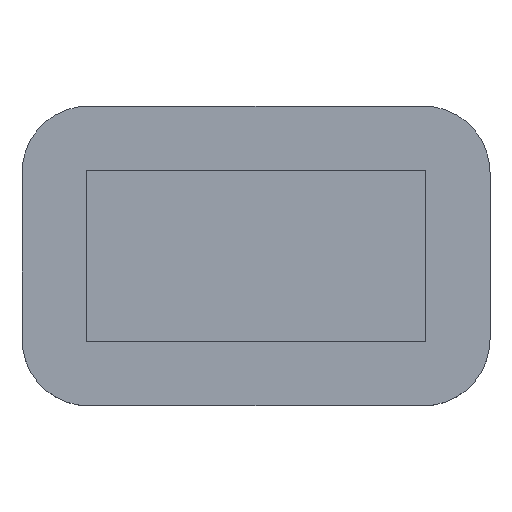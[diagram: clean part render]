
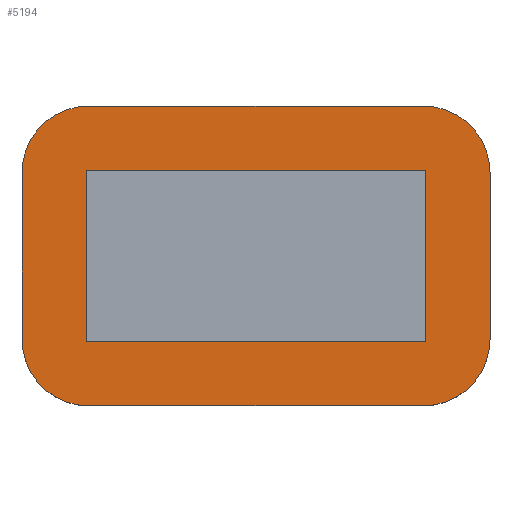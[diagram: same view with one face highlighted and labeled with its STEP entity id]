
A CAD part, top view. The second image highlights one B-rep face of the part: STEP entity #5194.
In plain terms, the highlighted planar face has unit normal (0, 0, 1).
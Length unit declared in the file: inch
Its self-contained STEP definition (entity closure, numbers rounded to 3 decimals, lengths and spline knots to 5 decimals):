
#71 = VECTOR ( 'NONE', #1730, 39.37008 ) ;
#92 = ORIENTED_EDGE ( 'NONE', *, *, #4803, .T. ) ;
#267 = DIRECTION ( 'NONE',  ( 1., 0., 0. ) ) ;
#273 = VERTEX_POINT ( 'NONE', #2966 ) ;
#313 = LINE ( 'NONE', #408, #2699 ) ;
#405 = CARTESIAN_POINT ( 'NONE',  ( 4., -2.5625, 0. ) ) ;
#408 = CARTESIAN_POINT ( 'NONE',  ( 4., -2.5625, 0. ) ) ;
#445 = EDGE_CURVE ( 'NONE', #1226, #5301, #1207, .T. ) ;
#451 = LINE ( 'NONE', #405, #1558 ) ;
#491 = CARTESIAN_POINT ( 'NONE',  ( -2.9, -1.4625, 0. ) ) ;
#551 = DIRECTION ( 'NONE',  ( 0., -1., 0. ) ) ;
#571 = CARTESIAN_POINT ( 'NONE',  ( -2.86, -2.5625, 0. ) ) ;
#604 = ORIENTED_EDGE ( 'NONE', *, *, #5384, .T. ) ;
#623 = DIRECTION ( 'NONE',  ( 0., 0., 1. ) ) ;
#625 = DIRECTION ( 'NONE',  ( 0., 0., 1. ) ) ;
#654 = DIRECTION ( 'NONE',  ( 0., 0., 1. ) ) ;
#706 = AXIS2_PLACEMENT_3D ( 'NONE', #3453, #623, #3949 ) ;
#859 = ORIENTED_EDGE ( 'NONE', *, *, #3732, .T. ) ;
#904 = CARTESIAN_POINT ( 'NONE',  ( 2.86, -2.5625, 0. ) ) ;
#942 = CARTESIAN_POINT ( 'NONE',  ( 2.9, -1.4625, 0. ) ) ;
#984 = CARTESIAN_POINT ( 'NONE',  ( 2.86, 2.5625, 0. ) ) ;
#986 = DIRECTION ( 'NONE',  ( 1., 0., 0. ) ) ;
#997 = CARTESIAN_POINT ( 'NONE',  ( 2.9, -1.4625, 0. ) ) ;
#1043 = LINE ( 'NONE', #997, #1339 ) ;
#1146 = CARTESIAN_POINT ( 'NONE',  ( 0., 0., 0. ) ) ;
#1147 = EDGE_LOOP ( 'NONE', ( #2583, #4974, #604, #5345, #1340, #3180, #92, #859 ) ) ;
#1207 = LINE ( 'NONE', #4216, #3142 ) ;
#1226 = VERTEX_POINT ( 'NONE', #5193 ) ;
#1339 = VECTOR ( 'NONE', #2401, 39.37008 ) ;
#1340 = ORIENTED_EDGE ( 'NONE', *, *, #4292, .T. ) ;
#1351 = AXIS2_PLACEMENT_3D ( 'NONE', #2144, #5401, #267 ) ;
#1402 = CIRCLE ( 'NONE', #5766, 1.14 ) ;
#1452 = VERTEX_POINT ( 'NONE', #904 ) ;
#1464 = VERTEX_POINT ( 'NONE', #5730 ) ;
#1490 = VECTOR ( 'NONE', #551, 39.37008 ) ;
#1519 = EDGE_CURVE ( 'NONE', #2127, #3879, #3820, .T. ) ;
#1558 = VECTOR ( 'NONE', #2332, 39.37008 ) ;
#1564 = LINE ( 'NONE', #4901, #1738 ) ;
#1660 = VERTEX_POINT ( 'NONE', #942 ) ;
#1730 = DIRECTION ( 'NONE',  ( -1., 0., 0. ) ) ;
#1738 = VECTOR ( 'NONE', #1747, 39.37008 ) ;
#1747 = DIRECTION ( 'NONE',  ( 1., 0., 0. ) ) ;
#1813 = VERTEX_POINT ( 'NONE', #3238 ) ;
#1952 = CARTESIAN_POINT ( 'NONE',  ( -2.86, 2.5625, 0. ) ) ;
#2114 = DIRECTION ( 'NONE',  ( 0., -1., 0. ) ) ;
#2127 = VERTEX_POINT ( 'NONE', #984 ) ;
#2144 = CARTESIAN_POINT ( 'NONE',  ( -2.86, -1.4225, 0. ) ) ;
#2326 = ORIENTED_EDGE ( 'NONE', *, *, #2723, .F. ) ;
#2332 = DIRECTION ( 'NONE',  ( 0., 1., 0. ) ) ;
#2401 = DIRECTION ( 'NONE',  ( 0., 1., 0. ) ) ;
#2539 = CIRCLE ( 'NONE', #5280, 1.14 ) ;
#2583 = ORIENTED_EDGE ( 'NONE', *, *, #1519, .T. ) ;
#2699 = VECTOR ( 'NONE', #3722, 39.37008 ) ;
#2723 = EDGE_CURVE ( 'NONE', #4429, #1660, #1564, .T. ) ;
#2865 = CARTESIAN_POINT ( 'NONE',  ( 4., 2.5625, 0. ) ) ;
#2966 = CARTESIAN_POINT ( 'NONE',  ( -4., -1.4225, 0. ) ) ;
#2976 = AXIS2_PLACEMENT_3D ( 'NONE', #1146, #625, #4465 ) ;
#3005 = EDGE_CURVE ( 'NONE', #273, #5889, #4273, .T. ) ;
#3085 = ORIENTED_EDGE ( 'NONE', *, *, #4532, .F. ) ;
#3119 = EDGE_CURVE ( 'NONE', #1660, #1226, #1043, .T. ) ;
#3142 = VECTOR ( 'NONE', #5156, 39.37008 ) ;
#3180 = ORIENTED_EDGE ( 'NONE', *, *, #4867, .T. ) ;
#3238 = CARTESIAN_POINT ( 'NONE',  ( 4., -1.4225, 0. ) ) ;
#3314 = DIRECTION ( 'NONE',  ( 0., 0., 1. ) ) ;
#3410 = FACE_BOUND ( 'NONE', #5927, .T. ) ;
#3411 = CIRCLE ( 'NONE', #706, 1.14 ) ;
#3453 = CARTESIAN_POINT ( 'NONE',  ( -2.86, 1.4225, 0. ) ) ;
#3489 = CARTESIAN_POINT ( 'NONE',  ( 2.86, -1.4225, 0. ) ) ;
#3587 = EDGE_CURVE ( 'NONE', #3879, #1464, #3411, .T. ) ;
#3722 = DIRECTION ( 'NONE',  ( 1., 0., 0. ) ) ;
#3732 = EDGE_CURVE ( 'NONE', #5999, #2127, #1402, .T. ) ;
#3791 = CARTESIAN_POINT ( 'NONE',  ( 2.86, 1.4225, 0. ) ) ;
#3820 = LINE ( 'NONE', #2865, #71 ) ;
#3879 = VERTEX_POINT ( 'NONE', #1952 ) ;
#3947 = DIRECTION ( 'NONE',  ( 1., 0., 0. ) ) ;
#3949 = DIRECTION ( 'NONE',  ( 1., 0., 0. ) ) ;
#3996 = LINE ( 'NONE', #5274, #1490 ) ;
#4054 = CARTESIAN_POINT ( 'NONE',  ( 4., 1.4225, 0. ) ) ;
#4216 = CARTESIAN_POINT ( 'NONE',  ( 2.9, 1.4625, 0. ) ) ;
#4273 = CIRCLE ( 'NONE', #1351, 1.14 ) ;
#4292 = EDGE_CURVE ( 'NONE', #5889, #1452, #313, .T. ) ;
#4429 = VERTEX_POINT ( 'NONE', #491 ) ;
#4465 = DIRECTION ( 'NONE',  ( 1., 0., 0. ) ) ;
#4489 = PLANE ( 'NONE',  #2976 ) ;
#4532 = EDGE_CURVE ( 'NONE', #5301, #4429, #3996, .T. ) ;
#4643 = FACE_OUTER_BOUND ( 'NONE', #1147, .T. ) ;
#4803 = EDGE_CURVE ( 'NONE', #1813, #5999, #451, .T. ) ;
#4854 = VECTOR ( 'NONE', #2114, 39.37008 ) ;
#4867 = EDGE_CURVE ( 'NONE', #1452, #1813, #2539, .T. ) ;
#4901 = CARTESIAN_POINT ( 'NONE',  ( 2.9, -1.4625, 0. ) ) ;
#4967 = CARTESIAN_POINT ( 'NONE',  ( -2.9, 1.4625, 0. ) ) ;
#4974 = ORIENTED_EDGE ( 'NONE', *, *, #3587, .T. ) ;
#5156 = DIRECTION ( 'NONE',  ( -1., 0., 0. ) ) ;
#5193 = CARTESIAN_POINT ( 'NONE',  ( 2.9, 1.4625, 0. ) ) ;
#5194 = ADVANCED_FACE ( 'NONE', ( #3410, #4643 ), #4489, .T. ) ;
#5208 = ORIENTED_EDGE ( 'NONE', *, *, #3119, .F. ) ;
#5274 = CARTESIAN_POINT ( 'NONE',  ( -2.9, -1.4625, 0. ) ) ;
#5280 = AXIS2_PLACEMENT_3D ( 'NONE', #3489, #654, #3947 ) ;
#5291 = ORIENTED_EDGE ( 'NONE', *, *, #445, .F. ) ;
#5301 = VERTEX_POINT ( 'NONE', #4967 ) ;
#5345 = ORIENTED_EDGE ( 'NONE', *, *, #3005, .T. ) ;
#5369 = CARTESIAN_POINT ( 'NONE',  ( -4., -2.5625, 0. ) ) ;
#5384 = EDGE_CURVE ( 'NONE', #1464, #273, #5975, .T. ) ;
#5401 = DIRECTION ( 'NONE',  ( 0., 0., 1. ) ) ;
#5730 = CARTESIAN_POINT ( 'NONE',  ( -4., 1.4225, 0. ) ) ;
#5766 = AXIS2_PLACEMENT_3D ( 'NONE', #3791, #3314, #986 ) ;
#5889 = VERTEX_POINT ( 'NONE', #571 ) ;
#5927 = EDGE_LOOP ( 'NONE', ( #3085, #5291, #5208, #2326 ) ) ;
#5975 = LINE ( 'NONE', #5369, #4854 ) ;
#5999 = VERTEX_POINT ( 'NONE', #4054 ) ;
